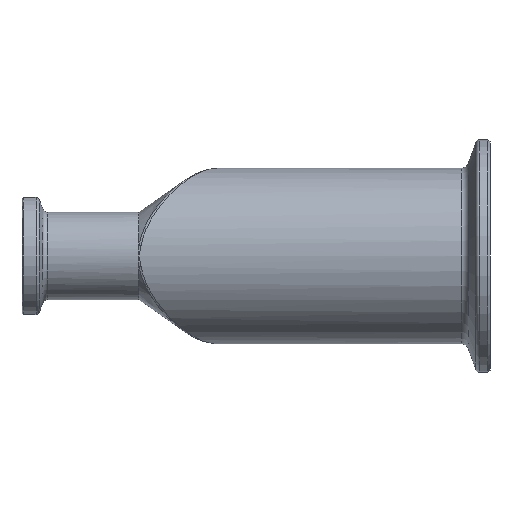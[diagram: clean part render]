
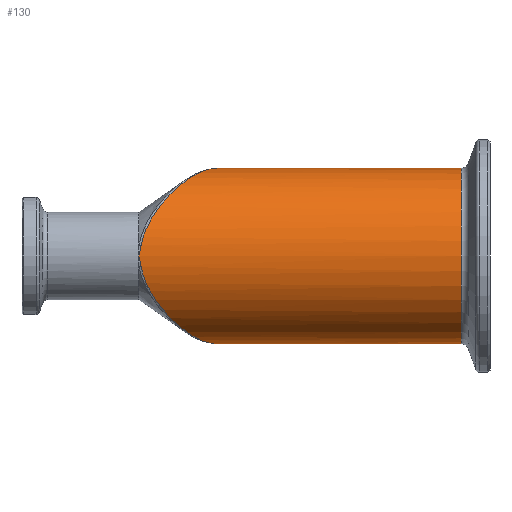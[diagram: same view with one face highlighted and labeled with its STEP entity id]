
A CAD part, front view. The second image highlights one B-rep face of the part: STEP entity #130.
In plain terms, the highlighted cylindrical face has radius 19.05 mm (diameter 38.1 mm), a partial arc.
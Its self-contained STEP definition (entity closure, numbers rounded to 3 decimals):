
#12 = CARTESIAN_POINT ( 'NONE',  ( 42.226, -0.569, -19.05 ) ) ;
#43 = CARTESIAN_POINT ( 'NONE',  ( 42.586, 0., -19.05 ) ) ;
#52 = CARTESIAN_POINT ( 'NONE',  ( 26.09, -18.75, -3.627 ) ) ;
#58 = CARTESIAN_POINT ( 'NONE',  ( 42.586, 0., 19.05 ) ) ;
#65 = CARTESIAN_POINT ( 'NONE',  ( 36.505, -8.628, 17.02 ) ) ;
#67 = VERTEX_POINT ( 'NONE', #853 ) ;
#68 = B_SPLINE_CURVE_WITH_KNOTS ( 'NONE', 3,
 ( #487, #2297, #299, #693 ),
 .UNSPECIFIED., .F., .F.,
 ( 4, 4 ),
 ( 0., 0.002 ),
 .UNSPECIFIED. ) ;
#75 = CARTESIAN_POINT ( 'NONE',  ( 26.92, -18.155, 5.779 ) ) ;
#130 = ADVANCED_FACE ( 'NONE', ( #2288 ), #1200, .T. ) ;
#132 = CARTESIAN_POINT ( 'NONE',  ( 29.244, -16.297, -9.883 ) ) ;
#146 = ORIENTED_EDGE ( 'NONE', *, *, #2508, .T. ) ;
#175 = ORIENTED_EDGE ( 'NONE', *, *, #1087, .T. ) ;
#178 = CARTESIAN_POINT ( 'NONE',  ( 41.86, -1.136, -19.025 ) ) ;
#183 = EDGE_CURVE ( 'NONE', #1537, #67, #1676, .T. ) ;
#239 = EDGE_CURVE ( 'NONE', #67, #2373, #2622, .T. ) ;
#269 = CARTESIAN_POINT ( 'NONE',  ( 34.927, -10.526, 15.887 ) ) ;
#275 = CARTESIAN_POINT ( 'NONE',  ( 26.553, -18.422, 4.862 ) ) ;
#280 = CARTESIAN_POINT ( 'NONE',  ( 28.564, -16.871, -8.866 ) ) ;
#299 = CARTESIAN_POINT ( 'NONE',  ( 25.717, -19.004, -1.523 ) ) ;
#386 = CARTESIAN_POINT ( 'NONE',  ( 25.4, -19.05, 0. ) ) ;
#394 = CARTESIAN_POINT ( 'NONE',  ( 25.558, -19.05, 0.762 ) ) ;
#414 = CARTESIAN_POINT ( 'NONE',  ( 26.515, -18.457, -4.881 ) ) ;
#422 = CARTESIAN_POINT ( 'NONE',  ( -12.994, 0., -19.05 ) ) ;
#429 = DIRECTION ( 'NONE',  ( 0., 0., 1. ) ) ;
#433 = CARTESIAN_POINT ( 'NONE',  ( 30.697, -14.987, -11.773 ) ) ;
#439 = CARTESIAN_POINT ( 'NONE',  ( 29.597, -15.989, -10.372 ) ) ;
#456 = CARTESIAN_POINT ( 'NONE',  ( 33.748, -11.866, 14.914 ) ) ;
#464 = CARTESIAN_POINT ( 'NONE',  ( 26.137, -18.717, 3.604 ) ) ;
#487 = CARTESIAN_POINT ( 'NONE',  ( 25.4, -19.05, 0. ) ) ;
#534 = EDGE_CURVE ( 'NONE', #2327, #1229, #68, .T. ) ;
#555 = CARTESIAN_POINT ( 'NONE',  ( 32.591, -13.121, -13.855 ) ) ;
#573 = CARTESIAN_POINT ( 'NONE',  ( 31.824, -13.903, -13.072 ) ) ;
#583 = EDGE_LOOP ( 'NONE', ( #2470, #2212, #2058, #146, #1372, #2467, #175 ) ) ;
#624 = CARTESIAN_POINT ( 'NONE',  ( 41.115, -2.268, -18.923 ) ) ;
#635 = CARTESIAN_POINT ( 'NONE',  ( 95.373, 0., 0. ) ) ;
#639 = CARTESIAN_POINT ( 'NONE',  ( -12.994, 0., 0. ) ) ;
#654 = CARTESIAN_POINT ( 'NONE',  ( 41.864, -1.14, 19.05 ) ) ;
#662 = CARTESIAN_POINT ( 'NONE',  ( 31.82, -13.907, 13.067 ) ) ;
#666 = CARTESIAN_POINT ( 'NONE',  ( 34.925, -10.541, -15.907 ) ) ;
#670 = CARTESIAN_POINT ( 'NONE',  ( 25.852, -18.913, 2.284 ) ) ;
#693 = CARTESIAN_POINT ( 'NONE',  ( 25.852, -18.913, -2.284 ) ) ;
#719 = B_SPLINE_CURVE_WITH_KNOTS ( 'NONE', 3,
 ( #2481, #52, #414, #1988, #1206, #2581, #280, #132, #439, #797, #433, #573, #555, #1086, #666, #1015, #973, #959, #922, #941, #624, #178, #12, #43 ),
 .UNSPECIFIED., .F., .F.,
 ( 4, 2, 2, 2, 2, 2, 2, 2, 2, 2, 2, 4 ),
 ( 0., 0.004, 0.006, 0.008, 0.01, 0.012, 0.016, 0.02, 0.024, 0.028, 0.03, 0.033 ),
 .UNSPECIFIED. ) ;
#769 = AXIS2_PLACEMENT_3D ( 'NONE', #639, #1463, #2059 ) ;
#797 = CARTESIAN_POINT ( 'NONE',  ( 30.323, -15.335, -11.317 ) ) ;
#853 = CARTESIAN_POINT ( 'NONE',  ( 95.373, 0., 19.05 ) ) ;
#855 = CARTESIAN_POINT ( 'NONE',  ( 39.984, -3.931, 18.649 ) ) ;
#859 = VERTEX_POINT ( 'NONE', #1301 ) ;
#861 = CARTESIAN_POINT ( 'NONE',  ( 30.332, -15.327, 11.328 ) ) ;
#866 = CARTESIAN_POINT ( 'NONE',  ( 25.852, -18.913, 2.284 ) ) ;
#873 = CARTESIAN_POINT ( 'NONE',  ( 25.852, -18.913, -2.284 ) ) ;
#922 = CARTESIAN_POINT ( 'NONE',  ( 39.601, -4.49, -18.547 ) ) ;
#941 = CARTESIAN_POINT ( 'NONE',  ( 40.737, -2.833, -18.847 ) ) ;
#959 = CARTESIAN_POINT ( 'NONE',  ( 38.837, -5.559, -18.254 ) ) ;
#973 = CARTESIAN_POINT ( 'NONE',  ( 37.292, -7.625, -17.492 ) ) ;
#1009 = CARTESIAN_POINT ( 'NONE',  ( 25.717, -19.004, 1.523 ) ) ;
#1015 = CARTESIAN_POINT ( 'NONE',  ( 36.51, -8.622, -17.023 ) ) ;
#1041 = AXIS2_PLACEMENT_3D ( 'NONE', #635, #1662, #429 ) ;
#1068 = CARTESIAN_POINT ( 'NONE',  ( 38.831, -5.555, 18.23 ) ) ;
#1075 = CARTESIAN_POINT ( 'NONE',  ( 29.249, -16.292, 9.89 ) ) ;
#1086 = CARTESIAN_POINT ( 'NONE',  ( 34.141, -11.439, -15.273 ) ) ;
#1087 = EDGE_CURVE ( 'NONE', #1229, #1901, #719, .T. ) ;
#1139 = CARTESIAN_POINT ( 'NONE',  ( 42.586, 0., 19.05 ) ) ;
#1189 = B_SPLINE_CURVE_WITH_KNOTS ( 'NONE', 3,
 ( #58, #654, #2084, #855, #2304, #1068, #2493, #1289, #65, #1488, #269, #1693, #456, #1885, #662, #2089, #861, #2312, #1075, #2500, #1297, #75, #1493, #275, #1702, #464, #1892, #670 ),
 .UNSPECIFIED., .F., .F.,
 ( 4, 2, 2, 2, 2, 2, 2, 2, 2, 2, 2, 2, 2, 4 ),
 ( 0.097, 0.101, 0.103, 0.105, 0.109, 0.111, 0.113, 0.117, 0.119, 0.121, 0.125, 0.126, 0.127, 0.129 ),
 .UNSPECIFIED. ) ;
#1200 = CYLINDRICAL_SURFACE ( 'NONE', #769, 19.05 ) ;
#1204 = EDGE_CURVE ( 'NONE', #1537, #1901, #1271, .T. ) ;
#1206 = CARTESIAN_POINT ( 'NONE',  ( 27.616, -17.63, -7.242 ) ) ;
#1229 = VERTEX_POINT ( 'NONE', #873 ) ;
#1271 = LINE ( 'NONE', #422, #2346 ) ;
#1289 = CARTESIAN_POINT ( 'NONE',  ( 37.285, -7.634, 17.488 ) ) ;
#1297 = CARTESIAN_POINT ( 'NONE',  ( 27.592, -17.654, 7.267 ) ) ;
#1301 = CARTESIAN_POINT ( 'NONE',  ( 25.852, -18.913, 2.284 ) ) ;
#1372 = ORIENTED_EDGE ( 'NONE', *, *, #1649, .T. ) ;
#1463 = DIRECTION ( 'NONE',  ( -1., 0., 0. ) ) ;
#1488 = CARTESIAN_POINT ( 'NONE',  ( 35.324, -10.058, 16.188 ) ) ;
#1493 = CARTESIAN_POINT ( 'NONE',  ( 26.792, -18.249, 5.476 ) ) ;
#1533 = CARTESIAN_POINT ( 'NONE',  ( 25.4, -19.05, 0. ) ) ;
#1537 = VERTEX_POINT ( 'NONE', #2249 ) ;
#1544 = VECTOR ( 'NONE', #2275, 1000. ) ;
#1649 = EDGE_CURVE ( 'NONE', #859, #2327, #1855, .T. ) ;
#1662 = DIRECTION ( 'NONE',  ( -1., 0., 0. ) ) ;
#1676 = CIRCLE ( 'NONE', #1041, 19.05 ) ;
#1693 = CARTESIAN_POINT ( 'NONE',  ( 34.139, -11.43, 15.25 ) ) ;
#1702 = CARTESIAN_POINT ( 'NONE',  ( 26.442, -18.501, 4.55 ) ) ;
#1737 = CARTESIAN_POINT ( 'NONE',  ( 42.586, 0., -19.05 ) ) ;
#1855 = B_SPLINE_CURVE_WITH_KNOTS ( 'NONE', 3,
 ( #866, #1009, #394, #386 ),
 .UNSPECIFIED., .F., .F.,
 ( 4, 4 ),
 ( 0., 0.002 ),
 .UNSPECIFIED. ) ;
#1885 = CARTESIAN_POINT ( 'NONE',  ( 32.584, -13.127, 13.849 ) ) ;
#1892 = CARTESIAN_POINT ( 'NONE',  ( 25.971, -18.832, 2.955 ) ) ;
#1901 = VERTEX_POINT ( 'NONE', #1737 ) ;
#1988 = CARTESIAN_POINT ( 'NONE',  ( 27.322, -17.855, -6.669 ) ) ;
#2058 = ORIENTED_EDGE ( 'NONE', *, *, #239, .T. ) ;
#2059 = DIRECTION ( 'NONE',  ( 0., 0., 1. ) ) ;
#2084 = CARTESIAN_POINT ( 'NONE',  ( 41.125, -2.266, 18.948 ) ) ;
#2089 = CARTESIAN_POINT ( 'NONE',  ( 30.7, -14.984, 11.778 ) ) ;
#2146 = DIRECTION ( 'NONE',  ( -1., 0., 0. ) ) ;
#2212 = ORIENTED_EDGE ( 'NONE', *, *, #183, .T. ) ;
#2249 = CARTESIAN_POINT ( 'NONE',  ( 95.373, 0., -19.05 ) ) ;
#2275 = DIRECTION ( 'NONE',  ( -1., 0., 0. ) ) ;
#2288 = FACE_OUTER_BOUND ( 'NONE', #583, .T. ) ;
#2297 = CARTESIAN_POINT ( 'NONE',  ( 25.558, -19.05, -0.761 ) ) ;
#2304 = CARTESIAN_POINT ( 'NONE',  ( 39.6, -4.48, 18.524 ) ) ;
#2312 = CARTESIAN_POINT ( 'NONE',  ( 29.606, -15.981, 10.385 ) ) ;
#2327 = VERTEX_POINT ( 'NONE', #1533 ) ;
#2346 = VECTOR ( 'NONE', #2146, 1000. ) ;
#2373 = VERTEX_POINT ( 'NONE', #1139 ) ;
#2457 = CARTESIAN_POINT ( 'NONE',  ( -12.994, 0., 19.05 ) ) ;
#2467 = ORIENTED_EDGE ( 'NONE', *, *, #534, .T. ) ;
#2470 = ORIENTED_EDGE ( 'NONE', *, *, #1204, .F. ) ;
#2481 = CARTESIAN_POINT ( 'NONE',  ( 25.852, -18.913, -2.284 ) ) ;
#2493 = CARTESIAN_POINT ( 'NONE',  ( 38.446, -6.083, 18.061 ) ) ;
#2500 = CARTESIAN_POINT ( 'NONE',  ( 28.224, -17.159, 8.358 ) ) ;
#2508 = EDGE_CURVE ( 'NONE', #2373, #859, #1189, .T. ) ;
#2581 = CARTESIAN_POINT ( 'NONE',  ( 28.237, -17.138, -8.339 ) ) ;
#2622 = LINE ( 'NONE', #2457, #1544 ) ;
